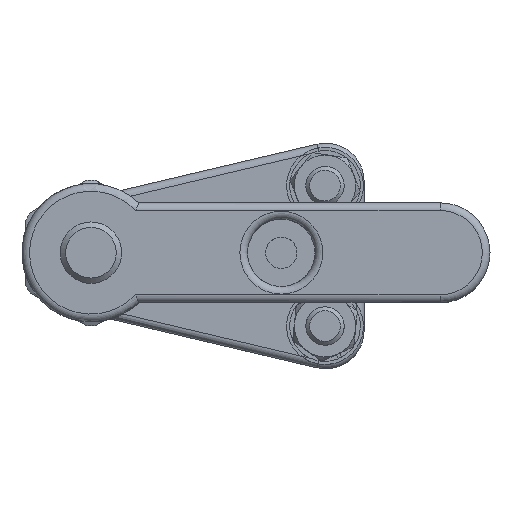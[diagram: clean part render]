
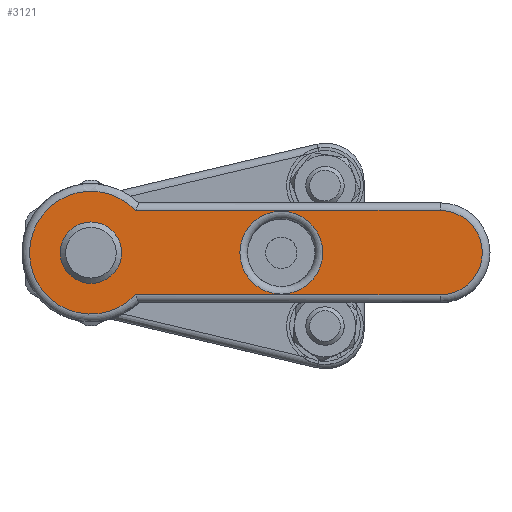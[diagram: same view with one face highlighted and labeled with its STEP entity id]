
A CAD part, top view. The second image highlights one B-rep face of the part: STEP entity #3121.
In plain terms, the highlighted planar face has unit normal (0, 0, 1).
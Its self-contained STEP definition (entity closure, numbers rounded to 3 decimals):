
#3054=CARTESIAN_POINT('',(19.4,0.,18.5));
#3055=VERTEX_POINT('',#3054);
#3056=CARTESIAN_POINT('',(24.8,0.,18.5));
#3057=DIRECTION('',(0.0,0.0,1.0));
#3058=DIRECTION('',(-1.0,0.0,0.0));
#3059=AXIS2_PLACEMENT_3D('',#3056,#3057,#3058);
#3060=CIRCLE('',#3059,5.4);
#3061=EDGE_CURVE('',#3055,#3055,#3060,.T.);
#3066=CARTESIAN_POINT('',(0.683,-0.304,18.5));
#3067=DIRECTION('',(0.0,0.0,1.0));
#3068=DIRECTION('',(1.0,0.0,0.0));
#3069=AXIS2_PLACEMENT_3D('',#3066,#3067,#3068);
#3070=PLANE('',#3069);
#3071=CARTESIAN_POINT('',(5.809,-5.5,18.5));
#3072=VERTEX_POINT('',#3071);
#3073=CARTESIAN_POINT('',(5.809,5.5,18.5));
#3074=VERTEX_POINT('',#3073);
#3075=CARTESIAN_POINT('',(0.,0.,18.5));
#3076=DIRECTION('',(0.0,0.0,-1.0));
#3077=DIRECTION('',(-1.0,0.,0.0));
#3078=AXIS2_PLACEMENT_3D('',#3075,#3076,#3077);
#3079=CIRCLE('',#3078,8.0);
#3080=EDGE_CURVE('',#3072,#3074,#3079,.T.);
#3081=ORIENTED_EDGE('',*,*,#3080,.F.);
#3082=CARTESIAN_POINT('',(45.5,-5.5,18.5));
#3083=VERTEX_POINT('',#3082);
#3084=CARTESIAN_POINT('',(45.5,-5.5,18.5));
#3085=DIRECTION('',(-1.0,0.0,0.0));
#3086=VECTOR('',#3085,39.691);
#3087=LINE('',#3084,#3086);
#3088=EDGE_CURVE('',#3083,#3072,#3087,.T.);
#3089=ORIENTED_EDGE('',*,*,#3088,.F.);
#3090=CARTESIAN_POINT('',(45.5,5.5,18.5));
#3091=VERTEX_POINT('',#3090);
#3092=CARTESIAN_POINT('',(45.5,0.0,18.5));
#3093=DIRECTION('',(0.0,0.0,-1.0));
#3094=DIRECTION('',(1.0,0.0,0.0));
#3095=AXIS2_PLACEMENT_3D('',#3092,#3093,#3094);
#3096=CIRCLE('',#3095,5.5);
#3097=EDGE_CURVE('',#3091,#3083,#3096,.T.);
#3098=ORIENTED_EDGE('',*,*,#3097,.F.);
#3099=CARTESIAN_POINT('',(5.809,5.5,18.5));
#3100=DIRECTION('',(1.0,0.0,0.0));
#3101=VECTOR('',#3100,39.691);
#3102=LINE('',#3099,#3101);
#3103=EDGE_CURVE('',#3074,#3091,#3102,.T.);
#3104=ORIENTED_EDGE('',*,*,#3103,.F.);
#3105=EDGE_LOOP('',(#3081,#3089,#3098,#3104));
#3106=FACE_OUTER_BOUND('',#3105,.T.);
#3107=CARTESIAN_POINT('',(-4.0,0.0,18.5));
#3108=VERTEX_POINT('',#3107);
#3109=CARTESIAN_POINT('',(0.0,0.0,18.5));
#3110=DIRECTION('',(0.0,0.0,-1.0));
#3111=DIRECTION('',(-1.0,0.0,0.0));
#3112=AXIS2_PLACEMENT_3D('',#3109,#3110,#3111);
#3113=CIRCLE('',#3112,4.0);
#3114=EDGE_CURVE('',#3108,#3108,#3113,.T.);
#3115=ORIENTED_EDGE('',*,*,#3114,.T.);
#3116=EDGE_LOOP('',(#3115));
#3117=FACE_BOUND('',#3116,.T.);
#3118=ORIENTED_EDGE('',*,*,#3061,.F.);
#3119=EDGE_LOOP('',(#3118));
#3120=FACE_BOUND('',#3119,.T.);
#3121=ADVANCED_FACE('',(#3106,#3117,#3120),#3070,.T.);
